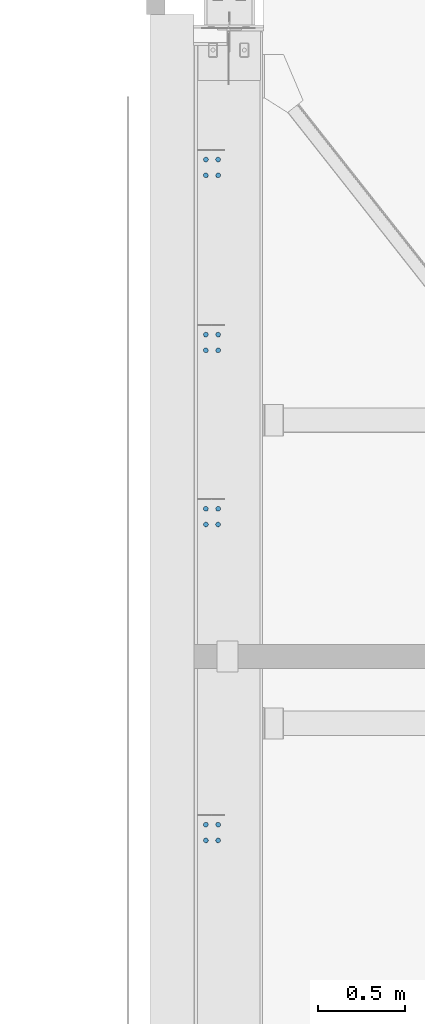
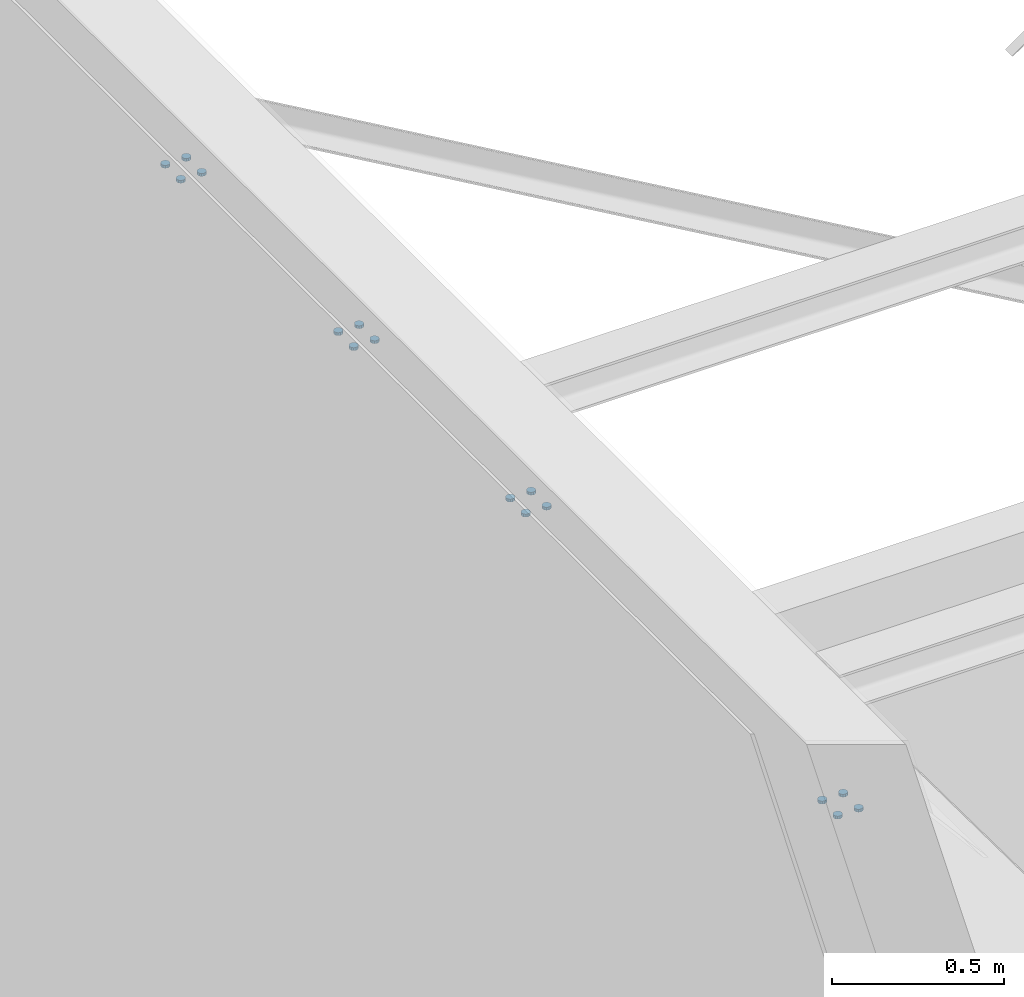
# One storey, part 3 of 186: 16 columns.
"""IFC4X3_ADD2 building model written with IfcOpenShell, lengths in millimetres."""

from ifc_helpers import new_model, si_unit, direction, frame, origin_with_axes, place, context, subcontext, project, spatial, polyline, outline, extrude, element, save


model = new_model("IFC4X3_ADD2")

# Units and contexts
model_context = context("Model", 3, precision=1e-05, world=origin_with_axes(), true_north=direction((0.0, 1.0)))
body_context = subcontext(model_context, "Body", "Model", "MODEL_VIEW")
ifc_project = project(units=[si_unit("LENGTHUNIT", "METRE", prefix="MILLI"), si_unit("AREAUNIT", "SQUARE_METRE"), si_unit("VOLUMEUNIT", "CUBIC_METRE"), si_unit("PLANEANGLEUNIT", "RADIAN"), si_unit("TIMEUNIT", "SECOND"), si_unit("MASSUNIT", "GRAM")], contexts=[model_context])

# Site, building, storey
site_placement = place(None, origin_with_axes())
site = spatial("IfcSite", under=ifc_project, at=site_placement, Name="Site", CompositionType="ELEMENT")
building_placement = place(site_placement, origin_with_axes())
building = spatial("IfcBuilding", under=site, at=building_placement, Name="IFC Building Story")
storey_placement = place(building_placement, frame((0.0, 0.0, 4370.0), z_axis=(0.0, 0.0, 1.0), x_axis=(1.0, 0.0, 0.0)))
storey = spatial("IfcBuildingStorey", under=building, at=storey_placement, Name="ETAGE 10 (1)", Elevation=4370.0)

# Columns
column_1_placement = place(storey_placement, frame((33254.08400610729, -4652.025589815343, 3212.145493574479), z_axis=(0.0, 0.01500926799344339, 0.9998873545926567), x_axis=(0.2588190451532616, -0.9658170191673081, 0.0144978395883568)))
element("IfcColumn", 1, at=column_1_placement, inside=storey, Name="ZW9", ObjectType="D28", context=body_context, shape_type="SweptSolid", body=[
    extrude(outline(polyline([(13.52296156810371, -3.623466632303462), (9.89949493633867, -9.899494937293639), (3.623466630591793, -13.52296156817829), (-3.623466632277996, -13.52296156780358), (-9.899494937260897, -9.899494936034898), (-13.52296156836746, -3.623466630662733), (-13.52296156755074, 3.623466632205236), (-9.899494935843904, 9.899494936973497), (-3.623466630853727, 13.52296156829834), (3.623466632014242, 13.52296156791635), (9.899494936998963, 9.899494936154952), (13.52296156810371, 3.623466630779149), (13.52296156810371, -3.623466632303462)])), frame((13.66889146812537, 13.52214528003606, 0.06449688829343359), z_axis=(0.0, 0.0, 1.0), x_axis=(1.0, 0.0, 0.0)), (0.0, 0.0, 1.0), 10.00000000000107),
])
column_2_placement = place(storey_placement, frame((33324.0840061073, -4652.025589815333, 3212.145493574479), z_axis=(0.0, 0.01500926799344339, 0.9998873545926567), x_axis=(0.2588190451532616, -0.9658170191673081, 0.0144978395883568)))
element("IfcColumn", 2, at=column_2_placement, inside=storey, Name="ZW9", ObjectType="D28", context=body_context, shape_type="SweptSolid", body=[
    extrude(outline(polyline([(13.52296156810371, -3.623466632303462), (9.89949493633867, -9.899494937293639), (3.623466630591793, -13.52296156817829), (-3.623466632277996, -13.52296156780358), (-9.899494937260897, -9.899494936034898), (-13.52296156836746, -3.623466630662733), (-13.52296156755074, 3.623466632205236), (-9.899494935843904, 9.899494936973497), (-3.623466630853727, 13.52296156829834), (3.623466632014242, 13.52296156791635), (9.899494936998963, 9.899494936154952), (13.52296156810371, 3.623466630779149), (13.52296156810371, -3.623466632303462)])), frame((13.66889146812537, 13.52214528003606, 0.06449688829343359), z_axis=(0.0, 0.0, 1.0), x_axis=(1.0, 0.0, 0.0)), (0.0, 0.0, 1.0), 10.00000000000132),
])
column_3_placement = place(storey_placement, frame((33324.0840061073, -4562.035727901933, 3210.794659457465), z_axis=(0.0, 0.01500926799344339, 0.9998873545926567), x_axis=(0.2588190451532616, -0.9658170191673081, 0.0144978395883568)))
element("IfcColumn", 3, at=column_3_placement, inside=storey, Name="ZW9", ObjectType="D28", context=body_context, shape_type="SweptSolid", body=[
    extrude(outline(polyline([(13.52296156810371, -3.623466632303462), (9.89949493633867, -9.899494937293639), (3.623466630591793, -13.52296156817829), (-3.623466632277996, -13.52296156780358), (-9.899494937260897, -9.899494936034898), (-13.52296156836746, -3.623466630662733), (-13.52296156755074, 3.623466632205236), (-9.899494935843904, 9.899494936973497), (-3.623466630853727, 13.52296156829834), (3.623466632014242, 13.52296156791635), (9.899494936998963, 9.899494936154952), (13.52296156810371, 3.623466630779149), (13.52296156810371, -3.623466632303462)])), frame((13.66889146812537, 13.52214528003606, 0.06449688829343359), z_axis=(0.0, 0.0, 1.0), x_axis=(1.0, 0.0, 0.0)), (0.0, 0.0, 1.0), 10.00000000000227),
])
column_4_placement = place(storey_placement, frame((33254.08400610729, -4562.035727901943, 3210.794659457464), z_axis=(0.0, 0.01500926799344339, 0.9998873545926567), x_axis=(0.2588190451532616, -0.9658170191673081, 0.0144978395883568)))
element("IfcColumn", 4, at=column_4_placement, inside=storey, Name="ZW9", ObjectType="D28", context=body_context, shape_type="SweptSolid", body=[
    extrude(outline(polyline([(13.52296156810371, -3.623466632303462), (9.89949493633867, -9.899494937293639), (3.623466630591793, -13.52296156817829), (-3.623466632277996, -13.52296156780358), (-9.899494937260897, -9.899494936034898), (-13.52296156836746, -3.623466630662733), (-13.52296156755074, 3.623466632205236), (-9.899494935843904, 9.899494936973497), (-3.623466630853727, 13.52296156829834), (3.623466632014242, 13.52296156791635), (9.899494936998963, 9.899494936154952), (13.52296156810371, 3.623466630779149), (13.52296156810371, -3.623466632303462)])), frame((13.66889146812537, 13.52214528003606, 0.06449688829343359), z_axis=(0.0, 0.0, 1.0), x_axis=(1.0, 0.0, 0.0)), (0.0, 0.0, 1.0), 10.00000000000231),
])
column_5_placement = place(storey_placement, frame((33254.08400610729, -2838.579544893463, 3183.971493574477), z_axis=(0.0, 0.01500926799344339, 0.9998873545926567), x_axis=(0.2588190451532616, -0.9658170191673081, 0.0144978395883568)))
element("IfcColumn", 5, at=column_5_placement, inside=storey, Name="ZW9", ObjectType="D28", context=body_context, shape_type="SweptSolid", body=[
    extrude(outline(polyline([(13.52296156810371, -3.623466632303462), (9.89949493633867, -9.899494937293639), (3.623466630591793, -13.52296156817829), (-3.623466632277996, -13.52296156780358), (-9.899494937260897, -9.899494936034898), (-13.52296156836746, -3.623466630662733), (-13.52296156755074, 3.623466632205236), (-9.899494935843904, 9.899494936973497), (-3.623466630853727, 13.52296156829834), (3.623466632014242, 13.52296156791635), (9.899494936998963, 9.899494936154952), (13.52296156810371, 3.623466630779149), (13.52296156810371, -3.623466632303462)])), frame((13.66889146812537, 13.52214528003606, 0.06449688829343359), z_axis=(0.0, 0.0, 1.0), x_axis=(1.0, 0.0, 0.0)), (0.0, 0.0, 1.0), 10.0000000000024),
])
column_6_placement = place(storey_placement, frame((33324.0840061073, -2838.579544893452, 3183.971493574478), z_axis=(0.0, 0.01500926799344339, 0.9998873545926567), x_axis=(0.2588190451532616, -0.9658170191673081, 0.0144978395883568)))
element("IfcColumn", 6, at=column_6_placement, inside=storey, Name="ZW9", ObjectType="D28", context=body_context, shape_type="SweptSolid", body=[
    extrude(outline(polyline([(13.52296156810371, -3.623466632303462), (9.89949493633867, -9.899494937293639), (3.623466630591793, -13.52296156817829), (-3.623466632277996, -13.52296156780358), (-9.899494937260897, -9.899494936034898), (-13.52296156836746, -3.623466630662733), (-13.52296156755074, 3.623466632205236), (-9.899494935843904, 9.899494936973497), (-3.623466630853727, 13.52296156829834), (3.623466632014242, 13.52296156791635), (9.899494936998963, 9.899494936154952), (13.52296156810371, 3.623466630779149), (13.52296156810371, -3.623466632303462)])), frame((13.66889146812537, 13.52214528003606, 0.06449688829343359), z_axis=(0.0, 0.0, 1.0), x_axis=(1.0, 0.0, 0.0)), (0.0, 0.0, 1.0), 10.00000000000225),
])
column_7_placement = place(storey_placement, frame((33324.0840061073, -2748.589682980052, 3182.620659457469), z_axis=(0.0, 0.01500926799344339, 0.9998873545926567), x_axis=(0.2588190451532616, -0.9658170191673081, 0.0144978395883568)))
element("IfcColumn", 7, at=column_7_placement, inside=storey, Name="ZW9", ObjectType="D28", context=body_context, shape_type="SweptSolid", body=[
    extrude(outline(polyline([(13.52296156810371, -3.623466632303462), (9.89949493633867, -9.899494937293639), (3.623466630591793, -13.52296156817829), (-3.623466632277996, -13.52296156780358), (-9.899494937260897, -9.899494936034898), (-13.52296156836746, -3.623466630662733), (-13.52296156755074, 3.623466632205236), (-9.899494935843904, 9.899494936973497), (-3.623466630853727, 13.52296156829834), (3.623466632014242, 13.52296156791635), (9.899494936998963, 9.899494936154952), (13.52296156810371, 3.623466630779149), (13.52296156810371, -3.623466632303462)])), frame((13.66889146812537, 13.52214528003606, 0.06449688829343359), z_axis=(0.0, 0.0, 1.0), x_axis=(1.0, 0.0, 0.0)), (0.0, 0.0, 1.0), 10.00000000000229),
])
column_8_placement = place(storey_placement, frame((33254.08400610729, -2748.589682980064, 3182.620659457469), z_axis=(0.0, 0.01500926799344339, 0.9998873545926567), x_axis=(0.2588190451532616, -0.9658170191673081, 0.0144978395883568)))
element("IfcColumn", 8, at=column_8_placement, inside=storey, Name="ZW9", ObjectType="D28", context=body_context, shape_type="SweptSolid", body=[
    extrude(outline(polyline([(13.52296156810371, -3.623466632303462), (9.89949493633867, -9.899494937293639), (3.623466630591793, -13.52296156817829), (-3.623466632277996, -13.52296156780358), (-9.899494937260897, -9.899494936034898), (-13.52296156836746, -3.623466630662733), (-13.52296156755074, 3.623466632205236), (-9.899494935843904, 9.899494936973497), (-3.623466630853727, 13.52296156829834), (3.623466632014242, 13.52296156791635), (9.899494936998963, 9.899494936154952), (13.52296156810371, 3.623466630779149), (13.52296156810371, -3.623466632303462)])), frame((13.66889146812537, 13.52214528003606, 0.06449688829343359), z_axis=(0.0, 0.0, 1.0), x_axis=(1.0, 0.0, 0.0)), (0.0, 0.0, 1.0), 10.00000000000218),
])
column_9_placement = place(storey_placement, frame((33254.08400610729, -1838.579544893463, 3168.435493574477), z_axis=(0.0, 0.01500926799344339, 0.9998873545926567), x_axis=(0.2588190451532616, -0.9658170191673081, 0.0144978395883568)))
element("IfcColumn", 9, at=column_9_placement, inside=storey, Name="ZW9", ObjectType="D28", context=body_context, shape_type="SweptSolid", body=[
    extrude(outline(polyline([(13.52296156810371, -3.623466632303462), (9.89949493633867, -9.899494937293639), (3.623466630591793, -13.52296156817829), (-3.623466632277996, -13.52296156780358), (-9.899494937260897, -9.899494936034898), (-13.52296156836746, -3.623466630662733), (-13.52296156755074, 3.623466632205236), (-9.899494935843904, 9.899494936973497), (-3.623466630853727, 13.52296156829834), (3.623466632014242, 13.52296156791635), (9.899494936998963, 9.899494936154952), (13.52296156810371, 3.623466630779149), (13.52296156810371, -3.623466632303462)])), frame((13.66889146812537, 13.52214528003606, 0.06449688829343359), z_axis=(0.0, 0.0, 1.0), x_axis=(1.0, 0.0, 0.0)), (0.0, 0.0, 1.0), 10.00000000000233),
])
column_10_placement = place(storey_placement, frame((33324.0840061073, -1838.579544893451, 3168.435493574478), z_axis=(0.0, 0.01500926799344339, 0.9998873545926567), x_axis=(0.2588190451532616, -0.9658170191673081, 0.0144978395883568)))
element("IfcColumn", 10, at=column_10_placement, inside=storey, Name="ZW9", ObjectType="D28", context=body_context, shape_type="SweptSolid", body=[
    extrude(outline(polyline([(13.52296156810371, -3.623466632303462), (9.89949493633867, -9.899494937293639), (3.623466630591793, -13.52296156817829), (-3.623466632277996, -13.52296156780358), (-9.899494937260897, -9.899494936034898), (-13.52296156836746, -3.623466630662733), (-13.52296156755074, 3.623466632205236), (-9.899494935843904, 9.899494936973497), (-3.623466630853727, 13.52296156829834), (3.623466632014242, 13.52296156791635), (9.899494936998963, 9.899494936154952), (13.52296156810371, 3.623466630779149), (13.52296156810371, -3.623466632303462)])), frame((13.66889146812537, 13.52214528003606, 0.06449688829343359), z_axis=(0.0, 0.0, 1.0), x_axis=(1.0, 0.0, 0.0)), (0.0, 0.0, 1.0), 10.00000000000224),
])
column_11_placement = place(storey_placement, frame((33324.0840061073, -1748.58968298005, 3167.084659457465), z_axis=(0.0, 0.01500926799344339, 0.9998873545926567), x_axis=(0.2588190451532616, -0.9658170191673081, 0.0144978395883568)))
element("IfcColumn", 11, at=column_11_placement, inside=storey, Name="ZW9", ObjectType="D28", context=body_context, shape_type="SweptSolid", body=[
    extrude(outline(polyline([(13.52296156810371, -3.623466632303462), (9.89949493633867, -9.899494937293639), (3.623466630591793, -13.52296156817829), (-3.623466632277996, -13.52296156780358), (-9.899494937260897, -9.899494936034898), (-13.52296156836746, -3.623466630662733), (-13.52296156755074, 3.623466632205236), (-9.899494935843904, 9.899494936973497), (-3.623466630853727, 13.52296156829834), (3.623466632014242, 13.52296156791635), (9.899494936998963, 9.899494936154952), (13.52296156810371, 3.623466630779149), (13.52296156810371, -3.623466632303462)])), frame((13.66889146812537, 13.52214528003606, 0.06449688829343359), z_axis=(0.0, 0.0, 1.0), x_axis=(1.0, 0.0, 0.0)), (0.0, 0.0, 1.0), 10.00000000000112),
])
column_12_placement = place(storey_placement, frame((33254.08400610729, -1748.589682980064, 3167.084659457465), z_axis=(0.0, 0.01500926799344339, 0.9998873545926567), x_axis=(0.2588190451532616, -0.9658170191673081, 0.0144978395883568)))
element("IfcColumn", 12, at=column_12_placement, inside=storey, Name="ZW9", ObjectType="D28", context=body_context, shape_type="SweptSolid", body=[
    extrude(outline(polyline([(13.52296156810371, -3.623466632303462), (9.89949493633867, -9.899494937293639), (3.623466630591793, -13.52296156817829), (-3.623466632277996, -13.52296156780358), (-9.899494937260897, -9.899494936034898), (-13.52296156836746, -3.623466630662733), (-13.52296156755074, 3.623466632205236), (-9.899494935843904, 9.899494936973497), (-3.623466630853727, 13.52296156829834), (3.623466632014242, 13.52296156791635), (9.899494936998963, 9.899494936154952), (13.52296156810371, 3.623466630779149), (13.52296156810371, -3.623466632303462)])), frame((13.66889146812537, 13.52214528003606, 0.06449688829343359), z_axis=(0.0, 0.0, 1.0), x_axis=(1.0, 0.0, 0.0)), (0.0, 0.0, 1.0), 10.00000000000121),
])
column_13_placement = place(storey_placement, frame((33254.08400610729, -833.9020394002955, 3152.826493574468), z_axis=(0.0, 0.01500926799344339, 0.9998873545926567), x_axis=(0.2588190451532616, -0.9658170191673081, 0.0144978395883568)))
element("IfcColumn", 13, at=column_13_placement, inside=storey, Name="ZW9", ObjectType="D28", context=body_context, shape_type="SweptSolid", body=[
    extrude(outline(polyline([(13.52296156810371, -3.623466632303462), (9.89949493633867, -9.899494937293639), (3.623466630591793, -13.52296156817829), (-3.623466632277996, -13.52296156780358), (-9.899494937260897, -9.899494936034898), (-13.52296156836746, -3.623466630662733), (-13.52296156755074, 3.623466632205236), (-9.899494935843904, 9.899494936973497), (-3.623466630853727, 13.52296156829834), (3.623466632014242, 13.52296156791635), (9.899494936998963, 9.899494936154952), (13.52296156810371, 3.623466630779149), (13.52296156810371, -3.623466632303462)])), frame((13.66889146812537, 13.52214528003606, 0.06449688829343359), z_axis=(0.0, 0.0, 1.0), x_axis=(1.0, 0.0, 0.0)), (0.0, 0.0, 1.0), 10.00000000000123),
])
column_14_placement = place(storey_placement, frame((33324.0840061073, -833.9020394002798, 3152.826493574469), z_axis=(0.0, 0.01500926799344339, 0.9998873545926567), x_axis=(0.2588190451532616, -0.9658170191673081, 0.0144978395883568)))
element("IfcColumn", 14, at=column_14_placement, inside=storey, Name="ZW9", ObjectType="D28", context=body_context, shape_type="SweptSolid", body=[
    extrude(outline(polyline([(13.52296156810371, -3.623466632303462), (9.89949493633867, -9.899494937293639), (3.623466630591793, -13.52296156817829), (-3.623466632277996, -13.52296156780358), (-9.899494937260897, -9.899494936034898), (-13.52296156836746, -3.623466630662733), (-13.52296156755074, 3.623466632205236), (-9.899494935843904, 9.899494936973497), (-3.623466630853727, 13.52296156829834), (3.623466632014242, 13.52296156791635), (9.899494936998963, 9.899494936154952), (13.52296156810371, 3.623466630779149), (13.52296156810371, -3.623466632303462)])), frame((13.66889146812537, 13.52214528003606, 0.06449688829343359), z_axis=(0.0, 0.0, 1.0), x_axis=(1.0, 0.0, 0.0)), (0.0, 0.0, 1.0), 10.00000000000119),
])
column_15_placement = place(storey_placement, frame((33324.0840061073, -743.912177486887, 3151.475659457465), z_axis=(0.0, 0.01500926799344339, 0.9998873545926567), x_axis=(0.2588190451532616, -0.9658170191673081, 0.0144978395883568)))
element("IfcColumn", 15, at=column_15_placement, inside=storey, Name="ZW9", ObjectType="D28", context=body_context, shape_type="SweptSolid", body=[
    extrude(outline(polyline([(13.52296156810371, -3.623466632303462), (9.89949493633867, -9.899494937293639), (3.623466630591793, -13.52296156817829), (-3.623466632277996, -13.52296156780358), (-9.899494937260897, -9.899494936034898), (-13.52296156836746, -3.623466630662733), (-13.52296156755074, 3.623466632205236), (-9.899494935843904, 9.899494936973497), (-3.623466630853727, 13.52296156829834), (3.623466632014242, 13.52296156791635), (9.899494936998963, 9.899494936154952), (13.52296156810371, 3.623466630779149), (13.52296156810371, -3.623466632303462)])), frame((13.66889146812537, 13.52214528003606, 0.06449688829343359), z_axis=(0.0, 0.0, 1.0), x_axis=(1.0, 0.0, 0.0)), (0.0, 0.0, 1.0), 10.00000000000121),
])
column_16_placement = place(storey_placement, frame((33254.08400610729, -743.9121774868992, 3151.475659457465), z_axis=(0.0, 0.01500926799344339, 0.9998873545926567), x_axis=(0.2588190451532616, -0.9658170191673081, 0.0144978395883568)))
element("IfcColumn", 16, at=column_16_placement, inside=storey, Name="ZW9", ObjectType="D28", context=body_context, shape_type="SweptSolid", body=[
    extrude(outline(polyline([(13.52296156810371, -3.623466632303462), (9.89949493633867, -9.899494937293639), (3.623466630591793, -13.52296156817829), (-3.623466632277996, -13.52296156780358), (-9.899494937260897, -9.899494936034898), (-13.52296156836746, -3.623466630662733), (-13.52296156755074, 3.623466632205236), (-9.899494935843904, 9.899494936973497), (-3.623466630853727, 13.52296156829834), (3.623466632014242, 13.52296156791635), (9.899494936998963, 9.899494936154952), (13.52296156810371, 3.623466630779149), (13.52296156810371, -3.623466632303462)])), frame((13.66889146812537, 13.52214528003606, 0.06449688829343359), z_axis=(0.0, 0.0, 1.0), x_axis=(1.0, 0.0, 0.0)), (0.0, 0.0, 1.0), 10.00000000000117),
])

save(model, "model.ifc")
